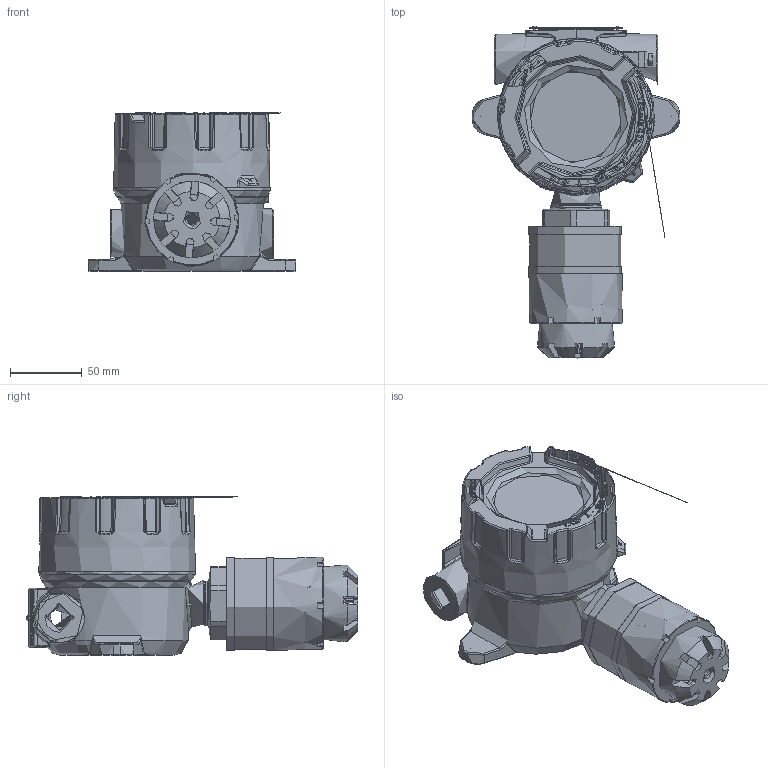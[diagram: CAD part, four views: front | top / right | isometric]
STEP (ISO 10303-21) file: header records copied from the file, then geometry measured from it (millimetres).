
FILE_DESCRIPTION(('STEP AP214'), '1');
FILE_NAME('ÄÃÑ Ýðèñ-210_Êîðïóñ', '', ('UNSPECIFIED'), ('UNSPECIFIED'), 'ASCON STEP Converter 1.3', 'ASCON Math Kernel', '');
FILE_SCHEMA(('AUTOMOTIVE_DESIGN { 1 0 10303 214 3 1 1}'));
Length unit declared in the file: millimetre
Products named in the file (19): korpus XD-I-obrobka - KU12-15; USZCZELKA XD-I ; podklladka PTN-1,5; podkl. M4; wkret PTN-1,5; podkladka. ET4; podkl. M5; wkret ETN-4; L4357- Pokrywa XD-ILwin - obrobka - napis w j.rosyjskim - ku13-16; L1652.1; L2239-piersc W95x3.; wkrêt blok M3; 橾迕.413216.210.06.01-06; jin75D2nz67; 橾迕.413216.210.12
Assembly tree (19 placements, depth 3):
  (unnamed)
    (unnamed)
      korpus XD-I-obrobka - KU12-15
      USZCZELKA XD-I 
      podklladka PTN-1,5
      podkl. M4
      wkret PTN-1,5
      podkladka. ET4
      podkl. M5
      wkret ETN-4
    (unnamed)
      L4357- Pokrywa XD-ILwin - obrobka - napis w j.rosyjskim - ku13-16
      L1652.1
      L2239-piersc W95x3.
      wkrêt blok M3
    橾迕.413216.210.06.01-06
    jin75D2nz67
    橾迕.413216.210.12
    (unnamed)  x2
Bounding box: 145 x 231.9 x 110.4 mm (x, y, z)
Volume: 215314 mm3; surface area: 217082.5 mm2
Topology: 15 solids, 17 shells, 4313 faces, 11819 edges, 7572 vertices
Faces by surface type: plane 2013, extrusion 1417, bspline 306, cylinder 270, cone 127, torus 110, sphere 70
Full cylindrical faces by diameter (mm): 0.75 x12, 2 x5, 2.459 x11, 2.5 x2, 2.6 x1, 2.8 x1, 3 x1, 3.242 x1, 3.5 x2, 3.6 x3, 3.9 x1, 4 x1, 4.1 x1, 4.134 x1, 4.5 x1, 4.9 x1, 5 x1, 5.1 x1, 6 x1, 7 x1, 7.28 x1, 7.95 x8, 8.28 x1, 8.4 x1, 10.106 x1, 17 x1, 18.376 x3, 20 x1, 30 x3, 32 x2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
Entity records: 198071 total; most frequent: CARTESIAN_POINT 64619, ORIENTED_EDGE 22260, DIRECTION 14951, EDGE_CURVE 11130, VECTOR 7655, VERTEX_POINT 7390, LINE 6238, B_SPLINE_CURVE_WITH_KNOTS 5260
